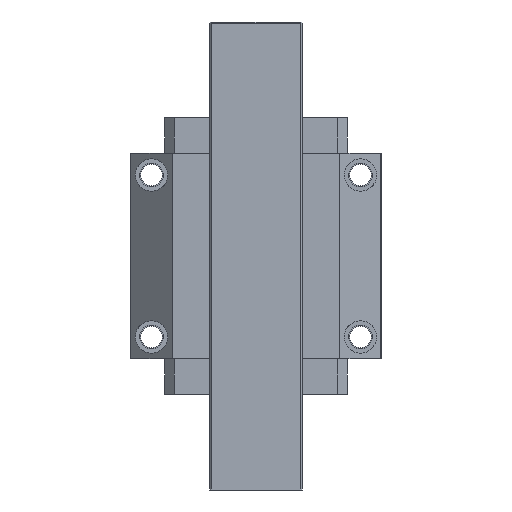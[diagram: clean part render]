
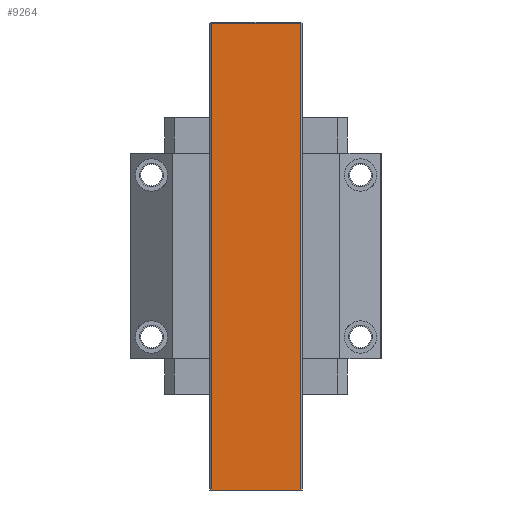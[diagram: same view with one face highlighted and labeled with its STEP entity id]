
A CAD part, front view. The second image highlights one B-rep face of the part: STEP entity #9264.
In plain terms, the highlighted planar face has unit normal (0, -1, 0).
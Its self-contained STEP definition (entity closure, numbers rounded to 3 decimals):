
#8225=DIRECTION('',(1.,0.,0.));
#8226=VECTOR('',#8225,60.6);
#8227=CARTESIAN_POINT('',(-30.3,-36.5,-159.));
#8228=LINE('',#8227,#8226);
#8498=DIRECTION('',(1.,0.,0.));
#8499=VECTOR('',#8498,60.6);
#8500=CARTESIAN_POINT('',(-30.3,-36.5,158.134));
#8501=LINE('',#8500,#8499);
#8502=DIRECTION('',(0.,0.,1.));
#8503=VECTOR('',#8502,317.134);
#8504=CARTESIAN_POINT('',(-30.3,-36.5,-159.));
#8505=LINE('',#8504,#8503);
#8510=DIRECTION('',(0.,0.,1.));
#8511=VECTOR('',#8510,317.134);
#8512=CARTESIAN_POINT('',(30.3,-36.5,-159.));
#8513=LINE('',#8512,#8511);
#8696=CARTESIAN_POINT('',(-30.3,-36.5,-159.));
#8697=VERTEX_POINT('',#8696);
#8698=CARTESIAN_POINT('',(30.3,-36.5,-159.));
#8699=VERTEX_POINT('',#8698);
#8760=CARTESIAN_POINT('',(30.3,-36.5,158.134));
#8761=VERTEX_POINT('',#8760);
#8764=CARTESIAN_POINT('',(-30.3,-36.5,158.134));
#8765=VERTEX_POINT('',#8764);
#9252=CARTESIAN_POINT('',(-30.3,-36.5,-159.));
#9253=DIRECTION('',(0.,-1.,0.));
#9254=DIRECTION('',(1.,0.,0.));
#9255=AXIS2_PLACEMENT_3D('',#9252,#9253,#9254);
#9256=PLANE('',#9255);
#9257=ORIENTED_EDGE('',*,*,#9243,.T.);
#9259=ORIENTED_EDGE('',*,*,#9258,.F.);
#9260=ORIENTED_EDGE('',*,*,#8845,.F.);
#9261=ORIENTED_EDGE('',*,*,#9218,.T.);
#9262=EDGE_LOOP('',(#9257,#9259,#9260,#9261));
#9263=FACE_OUTER_BOUND('',#9262,.F.);
#8845=EDGE_CURVE('',#8697,#8699,#8228,.T.);
#9218=EDGE_CURVE('',#8697,#8765,#8505,.T.);
#9243=EDGE_CURVE('',#8765,#8761,#8501,.T.);
#9258=EDGE_CURVE('',#8699,#8761,#8513,.T.);
#9264=ADVANCED_FACE('',(#9263),#9256,.T.);
